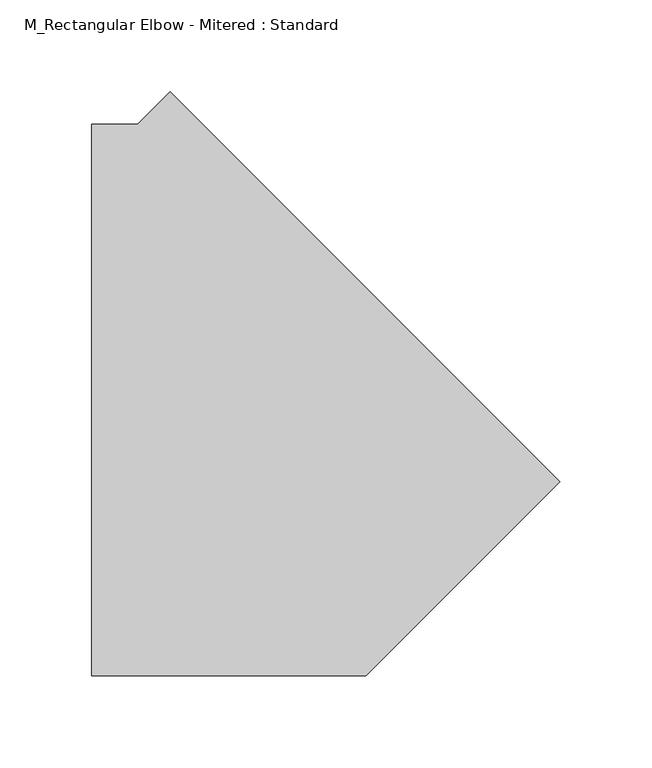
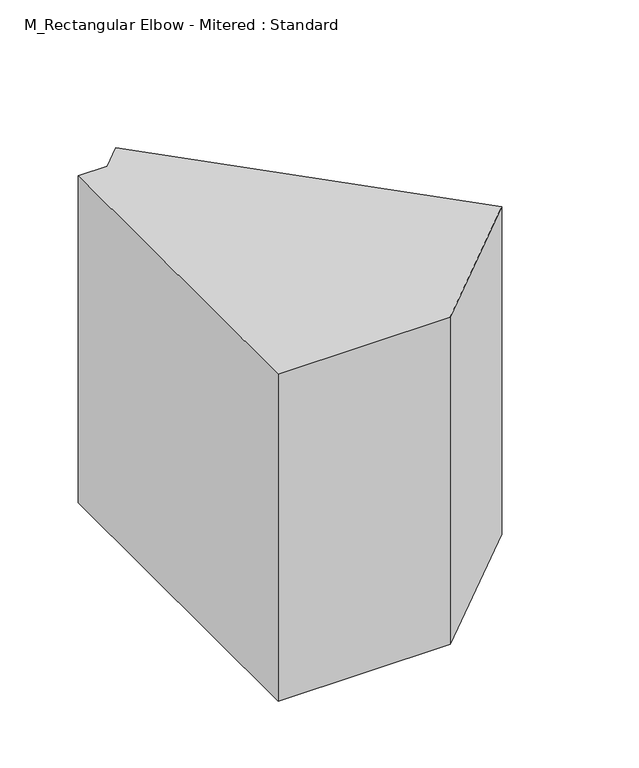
"""IFC4 building model written with IfcOpenShell, lengths in millimetres: duct fitting geometry, M_Rectangular Elbow - Mitered : Standard."""

from ifc_helpers import new_model, si_unit, frame, origin, place, context, project, spatial, polyline, outline, extrude, source, transform, mapped, element, save


def m_rectangular_elbow_mitered_standard_b81e202c(model_context):
    return source(origin(), model_context, "Body", "SweptSolid", [
        extrude(outline(polyline([(-87.1320344, -150.0), (-87.1320344, 150.0), (-62.1320344, 150.0), (-44.4543648, 167.6776695), (167.6776695, -44.4543648), (62.1320344, -150.0), (-87.1320344, -150.0)])), frame((0.0, 0.0, -150.0), z_axis=(0.0, 0.0, 1.0), x_axis=(1.0, 0.0, 0.0)), (0.0, 0.0, 1.0), 300.0),
        extrude(outline(polyline([(-87.1320344, -150.0), (-87.1320344, 150.0), (-62.1320344, 150.0), (-44.4543648, 167.6776695), (167.6776695, -44.4543648), (62.1320344, -150.0), (-87.1320344, -150.0)])), frame((0.0, 0.0, -150.0), z_axis=(0.0, 0.0, 1.0), x_axis=(1.0, 0.0, 0.0)), (0.0, 0.0, 1.0), 300.0),
        extrude(outline(polyline([(-87.1320344, -150.0), (-87.1320344, 150.0), (-62.1320344, 150.0), (-44.4543648, 167.6776695), (167.6776695, -44.4543648), (62.1320344, -150.0), (-87.1320344, -150.0)])), frame((0.0, 0.0, -150.0), z_axis=(0.0, 0.0, 1.0), x_axis=(1.0, 0.0, 0.0)), (0.0, 0.0, 1.0), 300.0),
    ])


if __name__ == "__main__":
    model = new_model("IFC4")
    model_context = context("Model", 3, world=origin())
    ifc_project = project(units=[si_unit("LENGTHUNIT", "METRE", prefix="MILLI")], contexts=[model_context])
    site = spatial("IfcSite", under=ifc_project)
    building = spatial("IfcBuilding", under=site)
    placement = place(None, origin())
    m_rectangular_elbow_mitered_standard_shape = m_rectangular_elbow_mitered_standard_b81e202c(model_context)
    element("IfcDuctFitting", 1, ObjectType="M_Rectangular Elbow - Mitered : Standard", at=placement, inside=building, context=model_context, shape_type="MappedRepresentation", body=[
        mapped(m_rectangular_elbow_mitered_standard_shape, transform((0.0, 0.0, 0.0), x_axis=(1.0, 0.0, 0.0), y_axis=(0.0, 1.0, 0.0), z_axis=(0.0, 0.0, 1.0))),
    ])
    save(model, "model.ifc")
